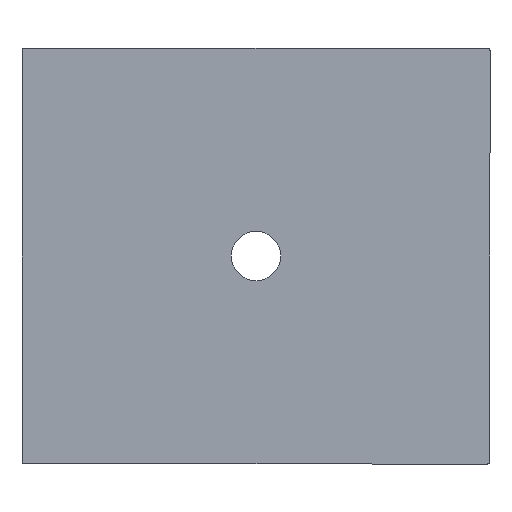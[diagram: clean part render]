
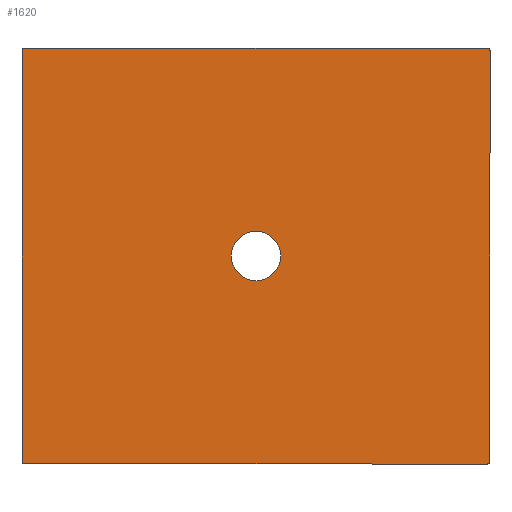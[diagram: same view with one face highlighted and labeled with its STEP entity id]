
A CAD part, front view. The second image highlights one B-rep face of the part: STEP entity #1620.
In plain terms, the highlighted planar face has unit normal (0, -1, 0).
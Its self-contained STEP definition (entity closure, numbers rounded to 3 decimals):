
#11 = VECTOR ( 'NONE', #2915, 1000. ) ;
#20 = EDGE_CURVE ( 'NONE', #1342, #2773, #1699, .T. ) ;
#65 = CARTESIAN_POINT ( 'NONE',  ( -450., 0., 397.929 ) ) ;
#153 = VECTOR ( 'NONE', #1713, 1000. ) ;
#155 = ORIENTED_EDGE ( 'NONE', *, *, #1067, .T. ) ;
#209 = VECTOR ( 'NONE', #2863, 1000. ) ;
#212 = EDGE_CURVE ( 'NONE', #2115, #2674, #308, .T. ) ;
#239 = CARTESIAN_POINT ( 'NONE',  ( 445.001, 0., -400. ) ) ;
#249 = CARTESIAN_POINT ( 'NONE',  ( 450., 0., 395.001 ) ) ;
#287 = CARTESIAN_POINT ( 'NONE',  ( 450., 0., 395.001 ) ) ;
#293 = CARTESIAN_POINT ( 'NONE',  ( 447.929, 0., -400. ) ) ;
#308 =( BOUNDED_CURVE ( )  B_SPLINE_CURVE ( 3, ( #779, #314, #65, #2180 ),
 .UNSPECIFIED., .F., .T. ) 
 B_SPLINE_CURVE_WITH_KNOTS ( ( 4, 4 ),
 ( 5.498, 7.068 ),
 .UNSPECIFIED. ) 
 CURVE ( )  GEOMETRIC_REPRESENTATION_ITEM ( )  RATIONAL_B_SPLINE_CURVE ( ( 1., 0.805, 0.805, 1. ) ) 
 REPRESENTATION_ITEM ( '' )  );
#314 = CARTESIAN_POINT ( 'NONE',  ( -447.929, 0., 400. ) ) ;
#451 = CARTESIAN_POINT ( 'NONE',  ( -450., 0., -397.929 ) ) ;
#490 = EDGE_CURVE ( 'NONE', #984, #984, #743, .T. ) ;
#497 = CARTESIAN_POINT ( 'NONE',  ( -445.001, 0., -400. ) ) ;
#575 = ORIENTED_EDGE ( 'NONE', *, *, #490, .F. ) ;
#612 = FACE_OUTER_BOUND ( 'NONE', #2222, .T. ) ;
#743 = CIRCLE ( 'NONE', #2491, 47.5 ) ;
#765 = CARTESIAN_POINT ( 'NONE',  ( 450., 0., -400. ) ) ;
#779 = CARTESIAN_POINT ( 'NONE',  ( -445.001, 0., 400. ) ) ;
#844 =( BOUNDED_CURVE ( )  B_SPLINE_CURVE ( 3, ( #2058, #451, #1650, #2296 ),
 .UNSPECIFIED., .F., .T. ) 
 B_SPLINE_CURVE_WITH_KNOTS ( ( 4, 4 ),
 ( 5.498, 7.068 ),
 .UNSPECIFIED. ) 
 CURVE ( )  GEOMETRIC_REPRESENTATION_ITEM ( )  RATIONAL_B_SPLINE_CURVE ( ( 1., 0.805, 0.805, 1. ) ) 
 REPRESENTATION_ITEM ( '' )  );
#859 = PLANE ( 'NONE',  #1447 ) ;
#906 = LINE ( 'NONE', #2836, #2845 ) ;
#946 = CARTESIAN_POINT ( 'NONE',  ( 447.929, 0., 400. ) ) ;
#984 = VERTEX_POINT ( 'NONE', #1017 ) ;
#1014 = LINE ( 'NONE', #2181, #11 ) ;
#1017 = CARTESIAN_POINT ( 'NONE',  ( 0., 0., -47.5 ) ) ;
#1023 = DIRECTION ( 'NONE',  ( 0., 1., 0. ) ) ;
#1037 = VERTEX_POINT ( 'NONE', #2442 ) ;
#1064 =( BOUNDED_CURVE ( )  B_SPLINE_CURVE ( 3, ( #249, #1961, #946, #2649 ),
 .UNSPECIFIED., .F., .T. ) 
 B_SPLINE_CURVE_WITH_KNOTS ( ( 4, 4 ),
 ( 5.498, 7.068 ),
 .UNSPECIFIED. ) 
 CURVE ( )  GEOMETRIC_REPRESENTATION_ITEM ( )  RATIONAL_B_SPLINE_CURVE ( ( 1., 0.805, 0.805, 1. ) ) 
 REPRESENTATION_ITEM ( '' )  );
#1067 = EDGE_CURVE ( 'NONE', #3058, #3036, #1064, .T. ) ;
#1081 = DIRECTION ( 'NONE',  ( 0., 0., -1. ) ) ;
#1226 = CARTESIAN_POINT ( 'NONE',  ( -450., 0., 395.001 ) ) ;
#1255 = CARTESIAN_POINT ( 'NONE',  ( 450., 0., 400. ) ) ;
#1292 = ORIENTED_EDGE ( 'NONE', *, *, #20, .F. ) ;
#1300 = CARTESIAN_POINT ( 'NONE',  ( 0., 0., 0. ) ) ;
#1342 = VERTEX_POINT ( 'NONE', #2991 ) ;
#1380 = CARTESIAN_POINT ( 'NONE',  ( -445.001, 0., 400. ) ) ;
#1447 = AXIS2_PLACEMENT_3D ( 'NONE', #2761, #1023, #1877 ) ;
#1521 = ORIENTED_EDGE ( 'NONE', *, *, #2399, .F. ) ;
#1554 = ORIENTED_EDGE ( 'NONE', *, *, #2875, .F. ) ;
#1620 = ADVANCED_FACE ( 'NONE', ( #1791, #612 ), #859, .F. ) ;
#1635 = EDGE_CURVE ( 'NONE', #3053, #2773, #844, .T. ) ;
#1650 = CARTESIAN_POINT ( 'NONE',  ( -447.929, 0., -400. ) ) ;
#1699 = LINE ( 'NONE', #765, #153 ) ;
#1713 = DIRECTION ( 'NONE',  ( -1., 0., 0. ) ) ;
#1791 = FACE_BOUND ( 'NONE', #2922, .T. ) ;
#1807 = ORIENTED_EDGE ( 'NONE', *, *, #2182, .F. ) ;
#1862 = DIRECTION ( 'NONE',  ( 1., 0., 0. ) ) ;
#1877 = DIRECTION ( 'NONE',  ( 0., 0., 1. ) ) ;
#1961 = CARTESIAN_POINT ( 'NONE',  ( 450., 0., 397.929 ) ) ;
#2058 = CARTESIAN_POINT ( 'NONE',  ( -450., 0., -395.001 ) ) ;
#2115 = VERTEX_POINT ( 'NONE', #1380 ) ;
#2180 = CARTESIAN_POINT ( 'NONE',  ( -450., 0., 395.001 ) ) ;
#2182 = EDGE_CURVE ( 'NONE', #2115, #3036, #906, .T. ) ;
#2181 = CARTESIAN_POINT ( 'NONE',  ( -450., 0., -400. ) ) ;
#2222 = EDGE_LOOP ( 'NONE', ( #1292, #2368, #1554, #155, #1807, #2804, #1521, #2906 ) ) ;
#2296 = CARTESIAN_POINT ( 'NONE',  ( -445.001, 0., -400. ) ) ;
#2368 = ORIENTED_EDGE ( 'NONE', *, *, #2720, .T. ) ;
#2399 = EDGE_CURVE ( 'NONE', #3053, #2674, #1014, .T. ) ;
#2408 = CARTESIAN_POINT ( 'NONE',  ( -450., 0., -395.001 ) ) ;
#2421 = LINE ( 'NONE', #1255, #209 ) ;
#2442 = CARTESIAN_POINT ( 'NONE',  ( 450., 0., -395.001 ) ) ;
#2491 = AXIS2_PLACEMENT_3D ( 'NONE', #1300, #2996, #1081 ) ;
#2649 = CARTESIAN_POINT ( 'NONE',  ( 445.001, 0., 400. ) ) ;
#2674 = VERTEX_POINT ( 'NONE', #1226 ) ;
#2720 = EDGE_CURVE ( 'NONE', #1342, #1037, #2877, .T. ) ;
#2761 = CARTESIAN_POINT ( 'NONE',  ( 0., 0., 0. ) ) ;
#2773 = VERTEX_POINT ( 'NONE', #497 ) ;
#2804 = ORIENTED_EDGE ( 'NONE', *, *, #212, .T. ) ;
#2836 = CARTESIAN_POINT ( 'NONE',  ( -450., 0., 400. ) ) ;
#2845 = VECTOR ( 'NONE', #1862, 1000. ) ;
#2857 = CARTESIAN_POINT ( 'NONE',  ( 450., 0., -395.001 ) ) ;
#2863 = DIRECTION ( 'NONE',  ( 0., 0., -1. ) ) ;
#2875 = EDGE_CURVE ( 'NONE', #3058, #1037, #2421, .T. ) ;
#2877 =( BOUNDED_CURVE ( )  B_SPLINE_CURVE ( 3, ( #239, #293, #2896, #2857 ),
 .UNSPECIFIED., .F., .T. ) 
 B_SPLINE_CURVE_WITH_KNOTS ( ( 4, 4 ),
 ( 5.498, 7.068 ),
 .UNSPECIFIED. ) 
 CURVE ( )  GEOMETRIC_REPRESENTATION_ITEM ( )  RATIONAL_B_SPLINE_CURVE ( ( 1., 0.805, 0.805, 1. ) ) 
 REPRESENTATION_ITEM ( '' )  );
#2890 = CARTESIAN_POINT ( 'NONE',  ( 445.001, 0., 400. ) ) ;
#2896 = CARTESIAN_POINT ( 'NONE',  ( 450., 0., -397.929 ) ) ;
#2906 = ORIENTED_EDGE ( 'NONE', *, *, #1635, .T. ) ;
#2915 = DIRECTION ( 'NONE',  ( 0., 0., 1. ) ) ;
#2922 = EDGE_LOOP ( 'NONE', ( #575 ) ) ;
#2991 = CARTESIAN_POINT ( 'NONE',  ( 445.001, 0., -400. ) ) ;
#2996 = DIRECTION ( 'NONE',  ( 0., -1., 0. ) ) ;
#3036 = VERTEX_POINT ( 'NONE', #2890 ) ;
#3053 = VERTEX_POINT ( 'NONE', #2408 ) ;
#3058 = VERTEX_POINT ( 'NONE', #287 ) ;
